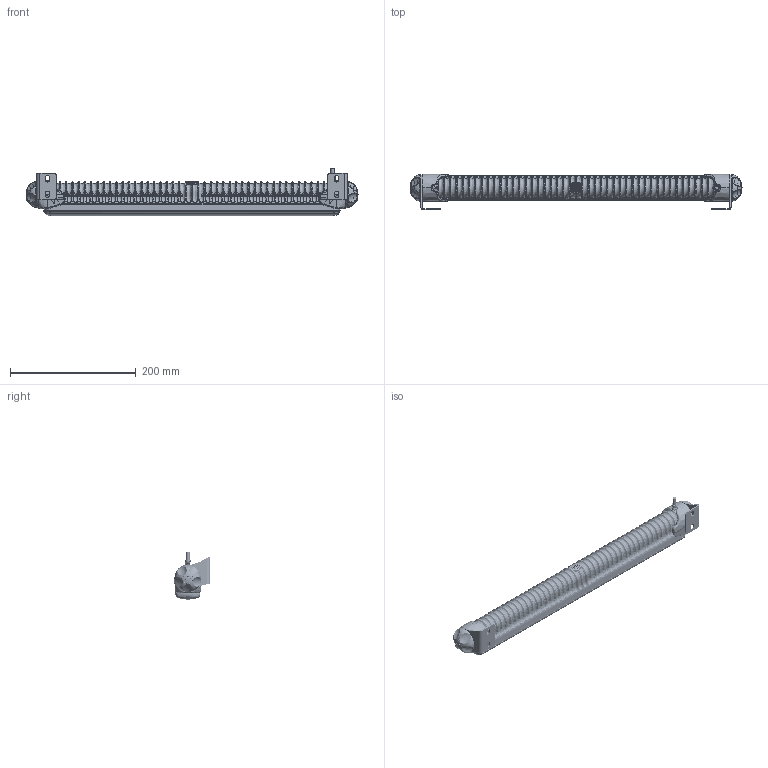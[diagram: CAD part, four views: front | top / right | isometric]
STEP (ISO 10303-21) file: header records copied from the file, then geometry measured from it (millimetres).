
FILE_DESCRIPTION(('CATIA V5 STEP Exchange','CAx-IF Rec.Pracs.--- Model Styling and Organization---1.5--- 2016-08-15','CAx-IF Rec.Pracs.---Supplemental Geometry---1.0---2011-11-01','CAx-IF Rec.Pracs.--- Composite Materials ---1.1---2010-07-15'),'2;1');
FILE_NAME('E:\tmp\ddx\2011218\HELLA_3D_data_LED_Light_Bar_470_1FJ-958-130-11.stp','2022-01-18T07:18:41+00:00',('none'),('none'),'CATIA Version 5-6 Release 2020 SP3 HF9','CATIA V5 STEP AP214 Edition 3 v2','none');
FILE_SCHEMA(('AUTOMOTIVE_DESIGN { 1 0 10303 214 3 1 1 1 }'));
Products named in the file (1): 10002658345_D10_001
Bounding box: 528.08 x 57.02 x 75.3 mm (x, y, z)
Volume: 858921.2 mm3; surface area: 140939.6 mm2
Topology: 15 solids, 15 shells, 6465 faces, 15989 edges, 9312 vertices
Faces by surface type: bspline 5036, plane 476, cylinder 326, torus 298, sphere 176, cone 153
Entity records: 562125 total; most frequent: CARTESIAN_POINT 468594, ORIENTED_EDGE 31434, EDGE_CURVE 15717, B_SPLINE_CURVE_WITH_KNOTS 11740, VERTEX_POINT 9312, EDGE_LOOP 6533, ADVANCED_FACE 6465, FACE_OUTER_BOUND 6465
